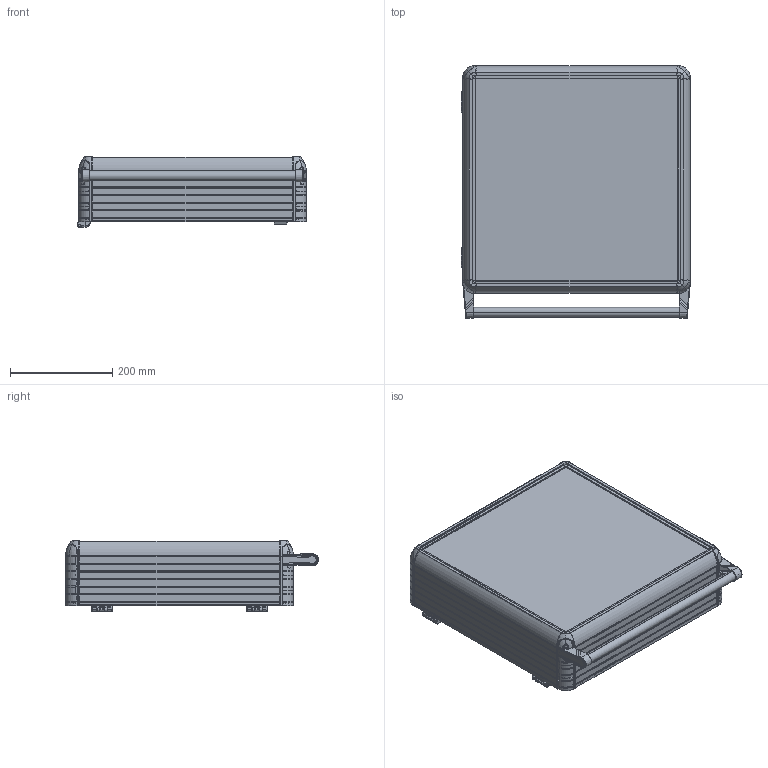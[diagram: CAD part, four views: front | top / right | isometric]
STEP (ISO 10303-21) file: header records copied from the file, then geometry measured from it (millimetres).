
FILE_DESCRIPTION (( 'STEP AP214' ), '1' );
FILE_NAME ('1200-0108.STEP', '2022-09-01T07:48:38', ( '' ), ( '' ), 'SwSTEP 2.0', 'SolidWorks 2022', '' );
FILE_SCHEMA (( 'AUTOMOTIVE_DESIGN' ));
Length unit declared in the file: millimetre
Products named in the file (8): ECO1200-0100(SAÐ); ECO1200-0000; boru_425; ARKA_KAPAK_400X400; 1200-0108; 400X400; HPECO-120-001-295_395; ECO1200-0100(SOL)
Assembly tree (11 placements, depth 2):
  1200-0108
    400X400
    ARKA_KAPAK_400X400
    ECO1200-0000  x2
    boru_425
    ECO1200-0100(SAÐ)
    ECO1200-0100(SOL)
    HPECO-120-001-295_395  x4
Bounding box: 449.03 x 495.81 x 139.15 mm (x, y, z)
Volume: 4114504 mm3; surface area: 1448241.2 mm2
Topology: 19 solids, 71 shells, 6373 faces, 17195 edges, 10724 vertices
Faces by surface type: plane 2581, cylinder 1652, bspline 1218, cone 582, torus 294, sphere 46
Entity records: 246990 total; most frequent: CARTESIAN_POINT 68947, ORIENTED_EDGE 28370, DIRECTION 22600, EDGE_CURVE 14185, VERTEX_POINT 8853, AXIS2_PLACEMENT_3D 8125, VECTOR 6350, LINE 6350
